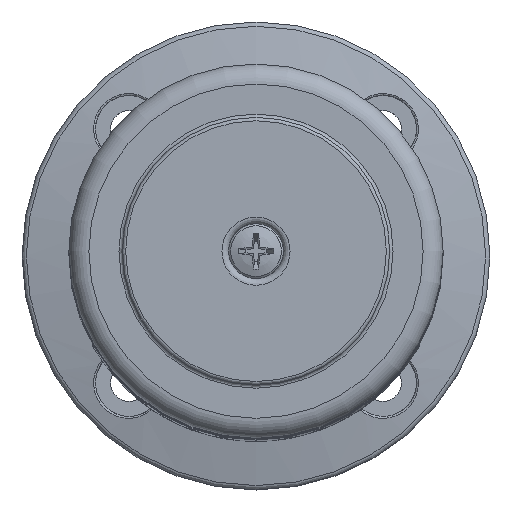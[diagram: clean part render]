
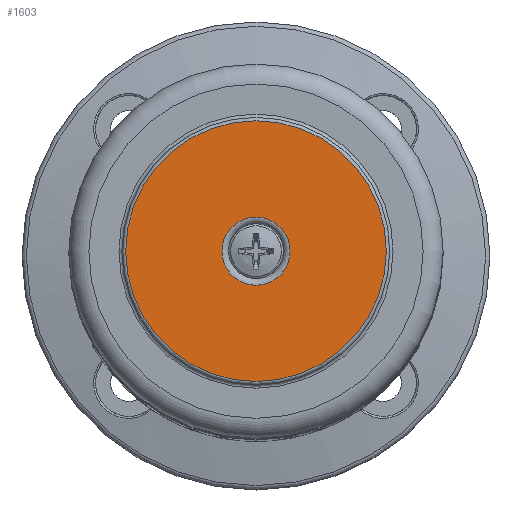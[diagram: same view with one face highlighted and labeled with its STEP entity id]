
A CAD part, top view. The second image highlights one B-rep face of the part: STEP entity #1603.
In plain terms, the highlighted planar face has unit normal (0, 0, 1).
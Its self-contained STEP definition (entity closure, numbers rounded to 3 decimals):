
#1603=ADVANCED_FACE('',(#3776,#3778),#3780,.T.);
#3776=FACE_BOUND('',#3777,.T.);
#3777=EDGE_LOOP('',(#6129));
#3778=FACE_BOUND('',#3779,.T.);
#3779=EDGE_LOOP('',(#6130));
#3780=PLANE('',#3781);
#3781=AXIS2_PLACEMENT_3D('',#3782,#3783,#3784);
#3782=CARTESIAN_POINT('',(0.,0.,8.7));
#3783=DIRECTION('',(0.,0.,1.));
#3784=DIRECTION('',(-1.,0.,0.));
#6129=ORIENTED_EDGE('',*,*,#7101,.F.);
#6130=ORIENTED_EDGE('',*,*,#7102,.T.);
#7101=EDGE_CURVE('',#8324,#8324,#8325,.T.);
#7102=EDGE_CURVE('',#8326,#8326,#8327,.T.);
#8324=VERTEX_POINT('',#12658);
#8325=CIRCLE('',#12659,19.5);
#8326=VERTEX_POINT('',#12663);
#8327=CIRCLE('',#12664,5.1);
#12658=CARTESIAN_POINT('',(-19.5,0.,8.7));
#12659=AXIS2_PLACEMENT_3D('',#12660,#12661,#12662);
#12660=CARTESIAN_POINT('',(0.,0.,8.7));
#12661=DIRECTION('',(0.,0.,-1.));
#12662=DIRECTION('',(-1.,0.,0.));
#12663=CARTESIAN_POINT('',(-5.1,0.,8.7));
#12664=AXIS2_PLACEMENT_3D('',#12665,#12666,#12667);
#12665=CARTESIAN_POINT('',(0.,0.,8.7));
#12666=DIRECTION('',(0.,0.,-1.));
#12667=DIRECTION('',(-1.,0.,0.));
